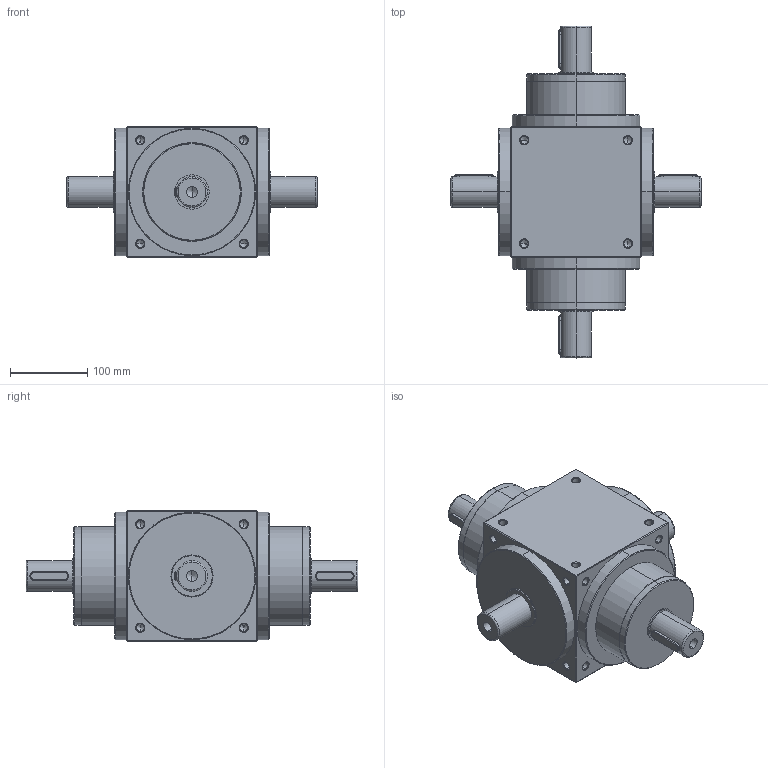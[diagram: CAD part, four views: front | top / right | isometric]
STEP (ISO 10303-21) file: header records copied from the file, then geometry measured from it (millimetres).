
FILE_DESCRIPTION (( 'STEP AP214' ), '1' );
FILE_NAME ('AT170-L-001.STEP', '2020-11-14T03:00:14', ( '微软用户' ), ( '微软中国' ), 'SwSTEP 2.0', 'SolidWorks 2014', '' );
FILE_SCHEMA (( 'AUTOMOTIVE_DESIGN' ));
Length unit declared in the file: millimetre
Products named in the file (2): AT170-L-001
Bounding box: 324 x 430 x 170 mm (x, y, z)
Volume: 7805850.6 mm3; surface area: 341410.5 mm2
Topology: 2 solids, 2 shells, 343 faces, 870 edges, 490 vertices
Faces by surface type: cylinder 144, cone 124, plane 63, bspline 12
Entity records: 13712 total; most frequent: CARTESIAN_POINT 2689, ORIENTED_EDGE 1628, DIRECTION 1578, EDGE_CURVE 814, AXIS2_PLACEMENT_3D 611, VERTEX_POINT 490, EDGE_LOOP 390, VECTOR 356
